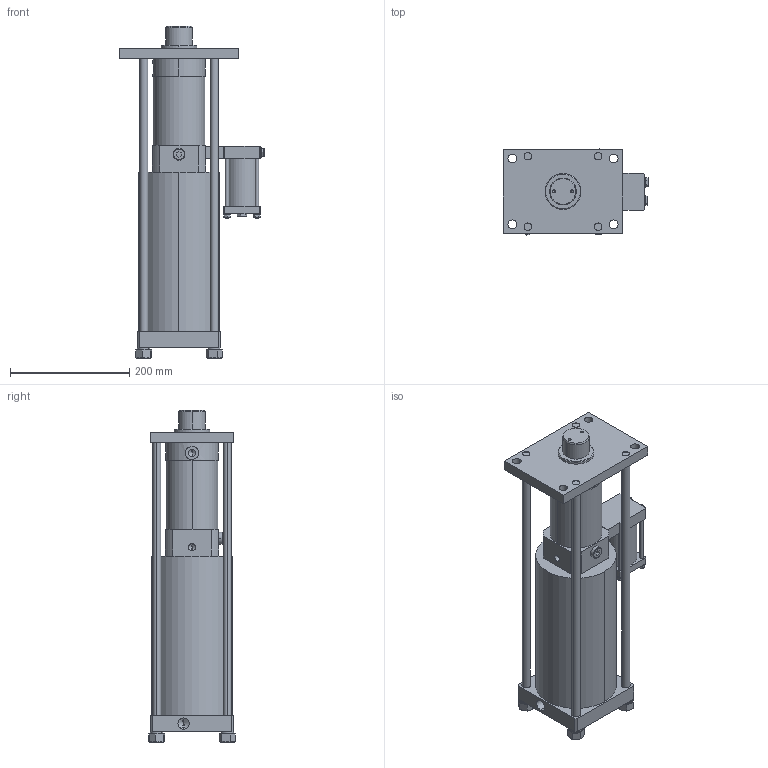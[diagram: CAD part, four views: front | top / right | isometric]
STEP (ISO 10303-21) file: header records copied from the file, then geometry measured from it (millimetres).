
FILE_DESCRIPTION (( 'STEP AP203' ), '1' );
FILE_NAME ('PCS5 12545 VC16.STEP', '2016-02-19T10:25:00', ( 'Admin' ), ( '' ), 'SwSTEP 2.0', 'SolidWorks 2015', '' );
FILE_SCHEMA (( 'CONFIG_CONTROL_DESIGN' ));
Length unit declared in the file: millimetre
Products named in the file (8): plain washer (type a)_is_IS 2016 A- 9; hexagon fit bolt_is_IS 3640 - M8 x 25 x 14.5-N; PCS5 12545_PCS5 12545 VC16; spring lock washer 3063_is_IS 3063- 6-A; hexagon nut style 1_is_IS 1364-3 - M6-W-N; spring lock washer 6735_is_IS 6735- 14; hex nut heavy_am_B18.2.4.6M - Heavy hex nut,  M14 x 2 --W-N; PCS5 12545 VC16
Assembly tree (21 placements, depth 2):
  PCS5 12545 VC16
    PCS5 12545_PCS5 12545 VC16
    plain washer (type a)_is_IS 2016 A- 9  x2
    hexagon fit bolt_is_IS 3640 - M8 x 25 x 14.5-N  x2
    spring lock washer 3063_is_IS 3063- 6-A  x4
    hexagon nut style 1_is_IS 1364-3 - M6-W-N  x4
    spring lock washer 6735_is_IS 6735- 14  x4
    hex nut heavy_am_B18.2.4.6M - Heavy hex nut,  M14 x 2 --W-N  x4
Bounding box: 243.6 x 145.34 x 556.3 mm (x, y, z)
Volume: 6921931.4 mm3; surface area: 462797 mm2
Topology: 22 solids, 22 shells, 643 faces, 1520 edges, 947 vertices
Faces by surface type: plane 269, cylinder 200, cone 138, bspline 36
Entity records: 11283 total; most frequent: CARTESIAN_POINT 2247, DIRECTION 1711, ORIENTED_EDGE 1554, EDGE_CURVE 777, AXIS2_PLACEMENT_3D 664, VERTEX_POINT 496, EDGE_LOOP 403, LINE 383
